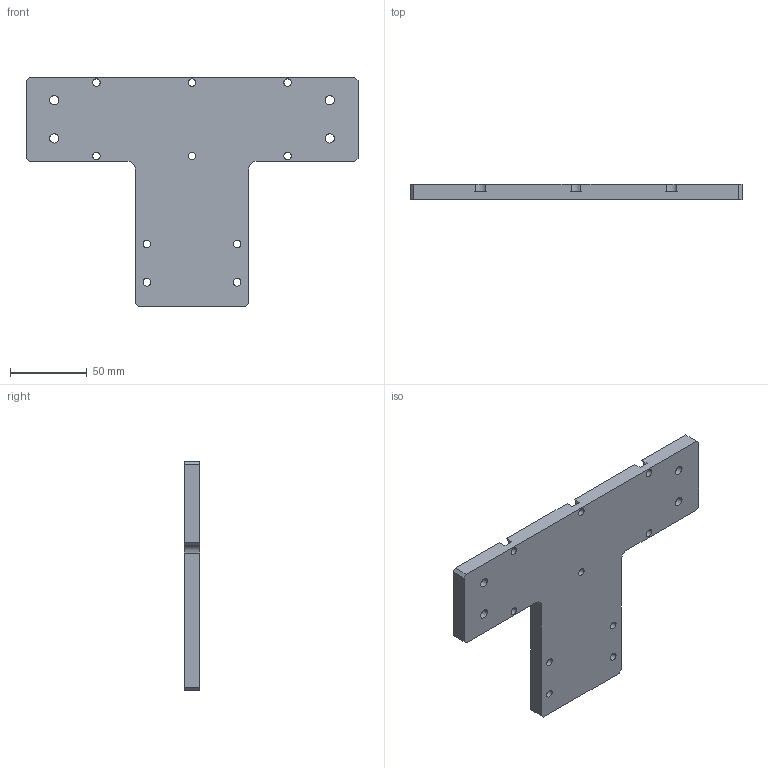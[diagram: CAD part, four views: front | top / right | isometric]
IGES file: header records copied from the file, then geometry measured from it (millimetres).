
Start section:  PTC IGES file: n46-n60m-ft.igs
Global section: file name: n46-n60m-ft.igs; native system: Pro/ENGINEER by Parametric Technology Corporation; preprocessor: 2008230; author: Owner; organization: Unknown; date: 20121212.113611; units: millimetre
Bounding box: 217 x 10 x 150 mm (x, y, z)
Surface area: 47324.3 mm2 (no closed solid volume)
Topology: 0 solids, 0 shells, 71 faces, 384 edges, 384 vertices
Faces by surface type: revolution 45, bspline 26
